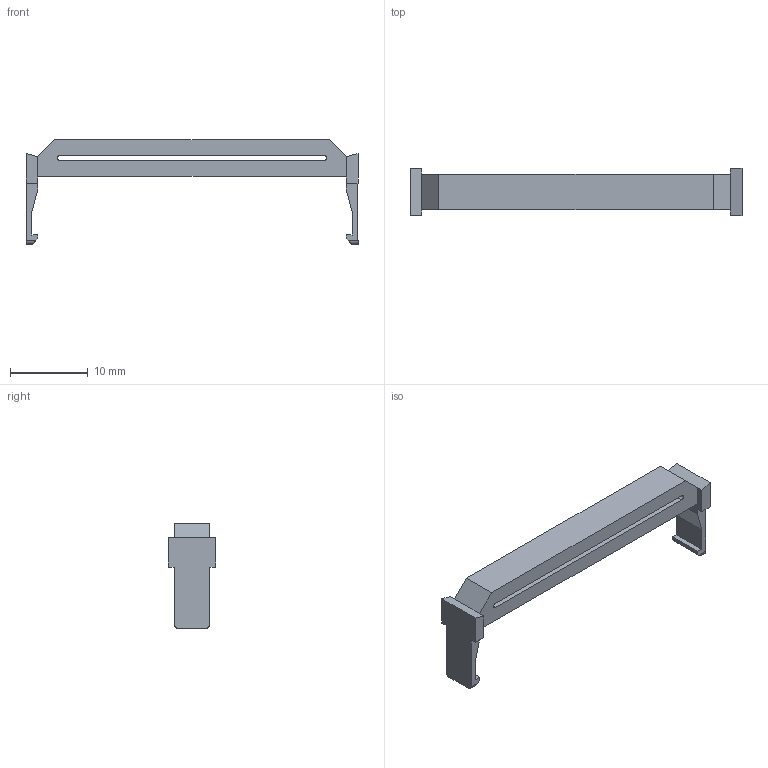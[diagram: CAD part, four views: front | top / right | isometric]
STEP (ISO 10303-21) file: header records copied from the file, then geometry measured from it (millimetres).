
FILE_DESCRIPTION(/* description */ (''),/* implementation_level */ '2;1');
FILE_NAME(/* name */ '3448-89130',/* time_stamp */ '2006-03-28T09:00:01-06:00',/* author */ (''),/* organization */ (''),/* preprocessor_version */ 'ST-DEVELOPER v9',/* originating_system */ 'UGS - NX 3.0',/* authorisation */ '');
FILE_SCHEMA (('CONFIG_CONTROL_DESIGN'));
Length unit declared in the file: inch
Products named in the file (1): us333793uaa2
Bounding box: 42.67 x 6.1 x 13.46 mm (x, y, z)
Volume: 877 mm3; surface area: 1316 mm2
Topology: 1 solids, 1 shells, 44 faces, 122 edges, 80 vertices
Faces by surface type: plane 38, cylinder 6
Entity records: 1604 total; most frequent: CARTESIAN_POINT 629, ORIENTED_EDGE 244, EDGE_CURVE 122, B_SPLINE_CURVE_WITH_KNOTS 122, DIRECTION 90, VERTEX_POINT 80, EDGE_LOOP 46, AXIS2_PLACEMENT_3D 45
